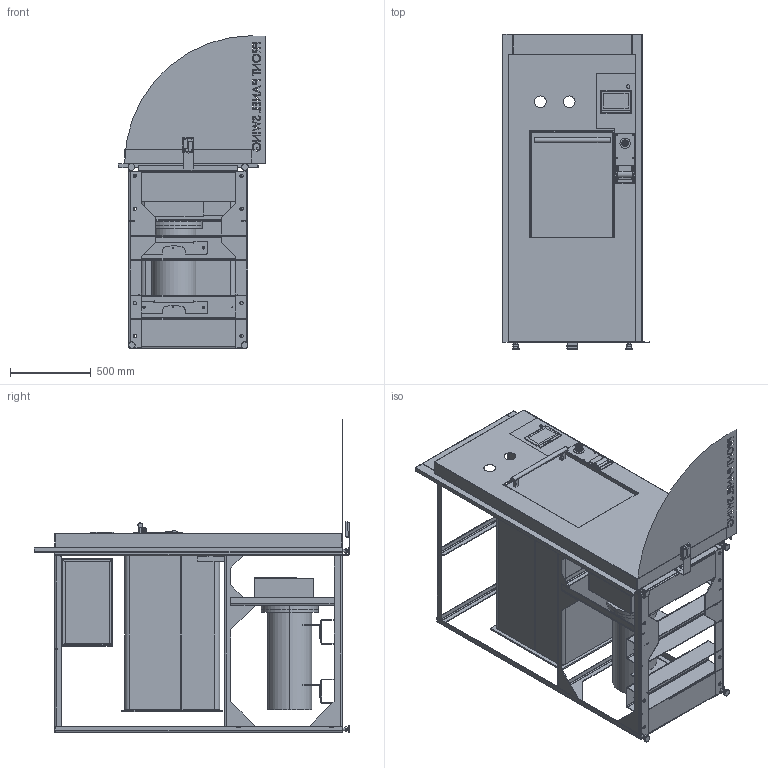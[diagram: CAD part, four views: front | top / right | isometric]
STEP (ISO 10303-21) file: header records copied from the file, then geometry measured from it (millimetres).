
FILE_DESCRIPTION (( 'STEP AP203' ), '1' );
FILE_NAME ('3AV-HC - REC - RIGHT CONTROLS.STEP', '2026-05-18T17:48:05', ( '' ), ( '' ), 'SwSTEP 2.0', 'SolidWorks 2024', '' );
FILE_SCHEMA (( 'CONFIG_CONTROL_DESIGN' ));
Length unit declared in the file: inch
Products named in the file (73): REVIT - 91214 - 3AV DOOR MACHINING; REVIT - xb5as86449b4; REVIT - 93376 - 3AV FRONT PANEL WELDMENT_92615-01 Right Hand Hinge; REVIT - PROGEN CHAMBER & PANEL ASSM_Right Hinge; REVIT -  PROGEN REAR HEAD; REVIT - 93364 - COUNTERWEIGHT SUPPORT 3AV FRAME MEMBER; REVIT - NAUT250L Printer_Config1; REVIT - 93391 - 3AV PRINTER PLATE_Config1; REVIT - 92852-20X20 JACKET-BOTTOM_Config1; REVIT - PROGEN CHAMBER BLANK; REVIT - 93362 - MIDDLE CROSS 3AV FRAME MEMBER; REVIT - 93514 - 3AV OVERLAY_-02; REVIT - 93531 - 3AV BOTTOM HORIZONTAL FRAME MEMBER - HC FRONT MOUNT_-01, LEFT; REVIT - 93370 - 3AV DOOR COVER; REVIT - 93383 - 3AV FRONT PANEL KIT_91517-01 Right Hinged; REVIT - PROGEN PANEL ASSM_Right; REVIT - 93359 - 3AV MIDDLE HORIZONTAL FRAME MEMBER HC FRONT MOUNT_-02, Right; REVIT - 93415 - TOP MOUNT CONTROL BOX - SIDES; REVIT - 93533 - 3AV FRAME FRONT MIDDLE CROSSMEMBER_Middle Frame Support; REVIT -  PROGEN CHAMBER WELDMENT; REVIT - 93532 - 3AV GENERATOR STAND - HC FRONT MOUNT_Config1; 3AV-HC - REC - RIGHT CONTROLS; REVIT - 93360 - TOP HORIZONTAL 3AV FRAME MEMBER_RightLeft; REVIT - 93511 -  3AV PRINTER PLATE ASSEM; REVIT - 93375 - 3AV FRONT PANEL_91218-01 Right Hinge; REVIT - 93530 - 3AV FRAME UPRIGHT_-01, Left; REVIT - 3AV ENDRING_Machined; REVIT - 02-251 - VERTICAL DOOR HANDLE_3743N115; REVIT - 93530 - 3AV FRAME UPRIGHT_-02, RIGHT; REVIT - 92851-20X20 CHAMBER-BOTTOM_Drain Half for 92608; REVIT - 93364 - COUNTERWEIGHT SUPPORT 3AV FRAME MEMBER_Right; REVIT - 3AV FOOT PEDAL BRACKET_Config1; REVIT - 93369 - 3AV FRAME ASSEMBLY; REVIT - 3AV Recessed Trim Top_-03 Top; REVIT - 93415 - TOP MOUNT CONTROL BOX - SIDES_With Holes; gt2107w_a.stp; Door Swing_Left Controls; GT2107_1.stp; REVIT - 92235 - 20 x 20 BACKHEAD_92235-01 - S.S. SA-240-316L; REVIT - 92667 - 3AV DOOR WELDMENT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
Assembly tree (83 placements, depth 5):
  3AV-HC - REC - RIGHT CONTROLS
    REVIT - 93615 - 3AV CHAMBER IN FRAME_No Rollers
      REVIT - 93369 - 3AV FRAME ASSEMBLY
        REVIT - 93530 - 3AV FRAME UPRIGHT_-01, Left
        REVIT - 93530 - 3AV FRAME UPRIGHT_-02, RIGHT
        REVIT - 93530 - 3AV FRAME UPRIGHT_Rear Upright  x2
        REVIT - 93531 - 3AV BOTTOM HORIZONTAL FRAME MEMBER - HC FRONT MOUNT_-02, RIGHT
        REVIT - 93531 - 3AV BOTTOM HORIZONTAL FRAME MEMBER - HC FRONT MOUNT_-01, LEFT
        REVIT - 93361 - BOTTOM CROSS 3AV FRAME MEMBER  x2
        REVIT - 93359 - 3AV MIDDLE HORIZONTAL FRAME MEMBER HC FRONT MOUNT_-01, Left
        REVIT - 93359 - 3AV MIDDLE HORIZONTAL FRAME MEMBER HC FRONT MOUNT_-02, Right
        REVIT - 93360 - TOP HORIZONTAL 3AV FRAME MEMBER_RightLeft
        REVIT - 93360 - TOP HORIZONTAL 3AV FRAME MEMBER_Left
        REVIT - 93362 - MIDDLE CROSS 3AV FRAME MEMBER
        REVIT - 93365 - AIR COMPRESSOR SUPPORT 3AV FRAME MEMBER
        REVIT - 93363 - TOP CROSS 3AV FRAME MEMBER  x2
        REVIT - 93364 - COUNTERWEIGHT SUPPORT 3AV FRAME MEMBER
        REVIT - 93364 - COUNTERWEIGHT SUPPORT 3AV FRAME MEMBER_Right
        REVIT - 93533 - 3AV FRAME FRONT MIDDLE CROSSMEMBER_Middle Frame Support
        REVIT - NUT, COUPLING, .75-10, UNCOATED_90264A243  x4
      REVIT - FOOT, POLYMOUNT .75-10 1.58_Config1  x4
      REVIT - 92666 - 3AV CHAMBER WELDMENT_92607-01 
        REVIT - 92849-20X20 CHAMBER-TOP_316L SS
        REVIT - 92851-20X20 CHAMBER-BOTTOM_Drain Half for 92608
        REVIT - 92850-20X20 JACKET-TOP_Config1
        REVIT - 92852-20X20 JACKET-BOTTOM_Config1
        REVIT - 92235 - 20 x 20 BACKHEAD_92235-01 - S.S. SA-240-316L
        REVIT - 91354 - 3AV ENDRING
          REVIT - 3AV ENDRING_Machined
    REVIT - 93555 - 3AV DOOR KIT_0 whole assembly 
      REVIT - 92667 - 3AV DOOR WELDMENT
        REVIT - 91214 - 3AV DOOR MACHINING
          REVIT - 92613 - 3AV DOOR BLANK_BLANK
      REVIT - 93370 - 3AV DOOR COVER
      REVIT - 02-251 - VERTICAL DOOR HANDLE_3743N115
    REVIT - 93383 - 3AV FRONT PANEL KIT_91517-01 Right Hinged
      REVIT - 93376 - 3AV FRONT PANEL WELDMENT_92615-01 Right Hand Hinge
        REVIT - 93375 - 3AV FRONT PANEL_91218-01 Right Hinge
      REVIT - 93511 -  3AV PRINTER PLATE ASSEM
        REVIT - 93391 - 3AV PRINTER PLATE_Config1
      REVIT - xb5as86449b4
      REVIT - NAUT250L Printer_Config1
      REVIT - 93514 - 3AV OVERLAY_-01
      REVIT - 93514 - 3AV OVERLAY_-02
      REVIT - gt2107w_a
        gt2107w_a.stp
          GT2107_1.stp
    REVIT - 3AV FOOT PEDAL BRACKET_Config1
    REVIT - Foot Pedal_Config1
    REVIT - 93657 - 3AV Recessed Trim_Config1
    REVIT - 93657 - 3AV Recessed Trim_-02, Right
    REVIT - 93532 - 3AV GENERATOR STAND - HC FRONT MOUNT_Config1  x2
    REVIT - 3AV Recessed Trim Top_-03 Top
    REVIT - PROGEN CHAMBER & PANEL ASSM_Right Hinge
      REVIT - PROGEN FACE PLATE
      REVIT -  PROGEN CHAMBER WELDMENT
        REVIT - PROGEN CHAMBER
          REVIT - PROGEN CHAMBER BLANK
        REVIT -  PROGEN WATER BAFFLE
        REVIT - PROGEN RING FLANGE
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Bounding box: 910.43 x 1951.02 x 1934.77 mm (x, y, z)
Volume: 68518030.6 mm3; surface area: 26753130.9 mm2
Topology: 71 solids, 71 shells, 4735 faces, 12959 edges, 8448 vertices
Faces by surface type: plane 2904, cylinder 1437, bspline 180, cone 108, torus 97, sphere 9
Entity records: 153827 total; most frequent: CARTESIAN_POINT 43123, ORIENTED_EDGE 22776, DIRECTION 19137, EDGE_CURVE 11388, VECTOR 7883, LINE 7883, VERTEX_POINT 7437, AXIS2_PLACEMENT_3D 5627
